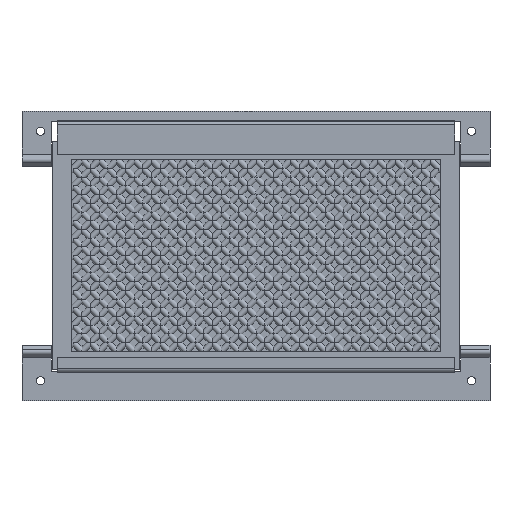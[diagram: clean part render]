
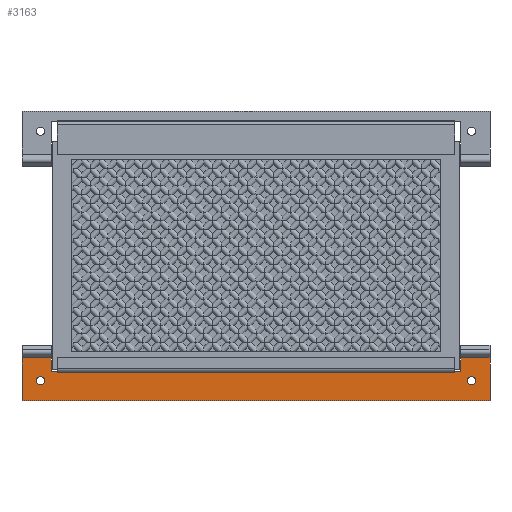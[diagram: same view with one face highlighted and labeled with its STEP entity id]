
A CAD part, front view. The second image highlights one B-rep face of the part: STEP entity #3163.
In plain terms, the highlighted planar face has unit normal (0, -1, 0).
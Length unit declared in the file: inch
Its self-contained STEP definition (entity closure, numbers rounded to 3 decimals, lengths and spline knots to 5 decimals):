
#2295=DIRECTION('',(-1.,0.,0.));
#2296=VECTOR('',#2295,0.125);
#2297=CARTESIAN_POINT('',(4.156,0.,-0.1389));
#2298=LINE('',#2297,#2296);
#2299=DIRECTION('',(0.,0.,-1.));
#2300=VECTOR('',#2299,0.02);
#2301=CARTESIAN_POINT('',(4.031,0.,-0.1189));
#2302=LINE('',#2301,#2300);
#2303=DIRECTION('',(0.,0.,-1.));
#2304=VECTOR('',#2303,0.02);
#2305=CARTESIAN_POINT('',(-4.031,0.,-0.1189));
#2306=LINE('',#2305,#2304);
#2307=DIRECTION('',(-1.,0.,0.));
#2308=VECTOR('',#2307,0.125);
#2309=CARTESIAN_POINT('',(-4.031,0.,-0.1389));
#2310=LINE('',#2309,#2308);
#2311=DIRECTION('',(0.,0.,1.));
#2312=VECTOR('',#2311,0.28235);
#2313=CARTESIAN_POINT('',(-4.156,0.,-0.42125));
#2314=LINE('',#2313,#2312);
#2315=DIRECTION('',(0.,0.,-1.));
#2316=VECTOR('',#2315,0.86735);
#2317=CARTESIAN_POINT('',(-4.75,0.,0.4461));
#2318=LINE('',#2317,#2316);
#2319=DIRECTION('',(0.,0.,1.));
#2320=VECTOR('',#2319,0.28235);
#2321=CARTESIAN_POINT('',(4.156,0.,-0.42125));
#2322=LINE('',#2321,#2320);
#2323=CARTESIAN_POINT('',(4.375,0.,0.0401));
#2324=DIRECTION('',(0.,1.,0.));
#2325=DIRECTION('',(1.,0.,0.));
#2326=AXIS2_PLACEMENT_3D('',#2323,#2324,#2325);
#2328=CARTESIAN_POINT('',(4.375,0.,0.0401));
#2329=DIRECTION('',(0.,1.,0.));
#2330=DIRECTION('',(-1.,0.,0.));
#2331=AXIS2_PLACEMENT_3D('',#2328,#2329,#2330);
#2333=CARTESIAN_POINT('',(-4.375,0.,0.0401));
#2334=DIRECTION('',(0.,1.,0.));
#2335=DIRECTION('',(1.,0.,0.));
#2336=AXIS2_PLACEMENT_3D('',#2333,#2334,#2335);
#2338=CARTESIAN_POINT('',(-4.375,0.,0.0401));
#2339=DIRECTION('',(0.,1.,0.));
#2340=DIRECTION('',(-1.,0.,0.));
#2341=AXIS2_PLACEMENT_3D('',#2338,#2339,#2340);
#2357=DIRECTION('',(1.,0.,0.));
#2358=VECTOR('',#2357,8.062);
#2359=CARTESIAN_POINT('',(-4.031,0.,-0.1189));
#2360=LINE('',#2359,#2358);
#2585=DIRECTION('',(1.,0.,0.));
#2586=VECTOR('',#2585,0.594);
#2587=CARTESIAN_POINT('',(-4.75,0.,-0.42125));
#2588=LINE('',#2587,#2586);
#2594=DIRECTION('',(1.,0.,0.));
#2595=VECTOR('',#2594,0.594);
#2596=CARTESIAN_POINT('',(4.156,0.,-0.42125));
#2597=LINE('',#2596,#2595);
#2811=DIRECTION('',(1.,0.,0.));
#2812=VECTOR('',#2811,9.5);
#2813=CARTESIAN_POINT('',(-4.75,0.,0.4461));
#2814=LINE('',#2813,#2812);
#2823=DIRECTION('',(0.,0.,-1.));
#2824=VECTOR('',#2823,0.86735);
#2825=CARTESIAN_POINT('',(4.75,0.,0.4461));
#2826=LINE('',#2825,#2824);
#2867=CARTESIAN_POINT('',(-4.75,0.,0.4461));
#2868=CARTESIAN_POINT('',(4.75,0.,0.4461));
#2869=VERTEX_POINT('',#2867);
#2870=VERTEX_POINT('',#2868);
#2884=CARTESIAN_POINT('',(4.75,0.,-0.42125));
#2886=VERTEX_POINT('',#2884);
#2888=CARTESIAN_POINT('',(-4.75,0.,-0.42125));
#2890=VERTEX_POINT('',#2888);
#2939=CARTESIAN_POINT('',(4.156,0.,-0.42125));
#2940=CARTESIAN_POINT('',(4.156,0.,-0.1389));
#2941=VERTEX_POINT('',#2939);
#2942=VERTEX_POINT('',#2940);
#2943=CARTESIAN_POINT('',(-4.156,0.,-0.42125));
#2944=CARTESIAN_POINT('',(-4.156,0.,-0.1389));
#2945=VERTEX_POINT('',#2943);
#2946=VERTEX_POINT('',#2944);
#2963=CARTESIAN_POINT('',(-4.031,0.,-0.1189));
#2964=CARTESIAN_POINT('',(-4.031,0.,-0.1389));
#2965=VERTEX_POINT('',#2963);
#2966=VERTEX_POINT('',#2964);
#2971=CARTESIAN_POINT('',(4.031,0.,-0.1189));
#2972=CARTESIAN_POINT('',(4.031,0.,-0.1389));
#2973=VERTEX_POINT('',#2971);
#2974=VERTEX_POINT('',#2972);
#3027=CARTESIAN_POINT('',(-4.292,0.,0.0401));
#3028=CARTESIAN_POINT('',(-4.458,0.,0.0401));
#3029=VERTEX_POINT('',#3027);
#3030=VERTEX_POINT('',#3028);
#3031=CARTESIAN_POINT('',(4.458,0.,0.0401));
#3032=CARTESIAN_POINT('',(4.292,0.,0.0401));
#3033=VERTEX_POINT('',#3031);
#3034=VERTEX_POINT('',#3032);
#3123=CARTESIAN_POINT('',(-4.75,0.,0.4461));
#3124=DIRECTION('',(0.,-1.,0.));
#3125=DIRECTION('',(1.,0.,0.));
#3126=AXIS2_PLACEMENT_3D('',#3123,#3124,#3125);
#3127=PLANE('',#3126);
#3128=ORIENTED_EDGE('',*,*,#3086,.T.);
#3129=ORIENTED_EDGE('',*,*,#3114,.F.);
#3131=ORIENTED_EDGE('',*,*,#3130,.F.);
#3133=ORIENTED_EDGE('',*,*,#3132,.T.);
#3134=ORIENTED_EDGE('',*,*,#3104,.T.);
#3136=ORIENTED_EDGE('',*,*,#3135,.F.);
#3138=ORIENTED_EDGE('',*,*,#3137,.F.);
#3140=ORIENTED_EDGE('',*,*,#3139,.F.);
#3142=ORIENTED_EDGE('',*,*,#3141,.T.);
#3144=ORIENTED_EDGE('',*,*,#3143,.T.);
#3146=ORIENTED_EDGE('',*,*,#3145,.F.);
#3148=ORIENTED_EDGE('',*,*,#3147,.T.);
#3149=EDGE_LOOP('',(#3128,#3129,#3131,#3133,#3134,#3136,#3138,#3140,#3142,#3144,
#3146,#3148));
#3150=FACE_OUTER_BOUND('',#3149,.F.);
#3152=ORIENTED_EDGE('',*,*,#3151,.F.);
#3154=ORIENTED_EDGE('',*,*,#3153,.F.);
#3155=EDGE_LOOP('',(#3152,#3154));
#3156=FACE_BOUND('',#3155,.F.);
#3158=ORIENTED_EDGE('',*,*,#3157,.F.);
#3160=ORIENTED_EDGE('',*,*,#3159,.F.);
#3161=EDGE_LOOP('',(#3158,#3160));
#3162=FACE_BOUND('',#3161,.F.);
#2327=CIRCLE('',#2326,0.083);
#2332=CIRCLE('',#2331,0.083);
#2337=CIRCLE('',#2336,0.083);
#2342=CIRCLE('',#2341,0.083);
#3086=EDGE_CURVE('',#2942,#2974,#2298,.T.);
#3104=EDGE_CURVE('',#2966,#2946,#2310,.T.);
#3114=EDGE_CURVE('',#2973,#2974,#2302,.T.);
#3130=EDGE_CURVE('',#2965,#2973,#2360,.T.);
#3132=EDGE_CURVE('',#2965,#2966,#2306,.T.);
#3135=EDGE_CURVE('',#2945,#2946,#2314,.T.);
#3137=EDGE_CURVE('',#2890,#2945,#2588,.T.);
#3139=EDGE_CURVE('',#2869,#2890,#2318,.T.);
#3141=EDGE_CURVE('',#2869,#2870,#2814,.T.);
#3143=EDGE_CURVE('',#2870,#2886,#2826,.T.);
#3145=EDGE_CURVE('',#2941,#2886,#2597,.T.);
#3147=EDGE_CURVE('',#2941,#2942,#2322,.T.);
#3151=EDGE_CURVE('',#3033,#3034,#2327,.T.);
#3153=EDGE_CURVE('',#3034,#3033,#2332,.T.);
#3157=EDGE_CURVE('',#3029,#3030,#2337,.T.);
#3159=EDGE_CURVE('',#3030,#3029,#2342,.T.);
#3163=ADVANCED_FACE('',(#3150,#3156,#3162),#3127,.T.);
